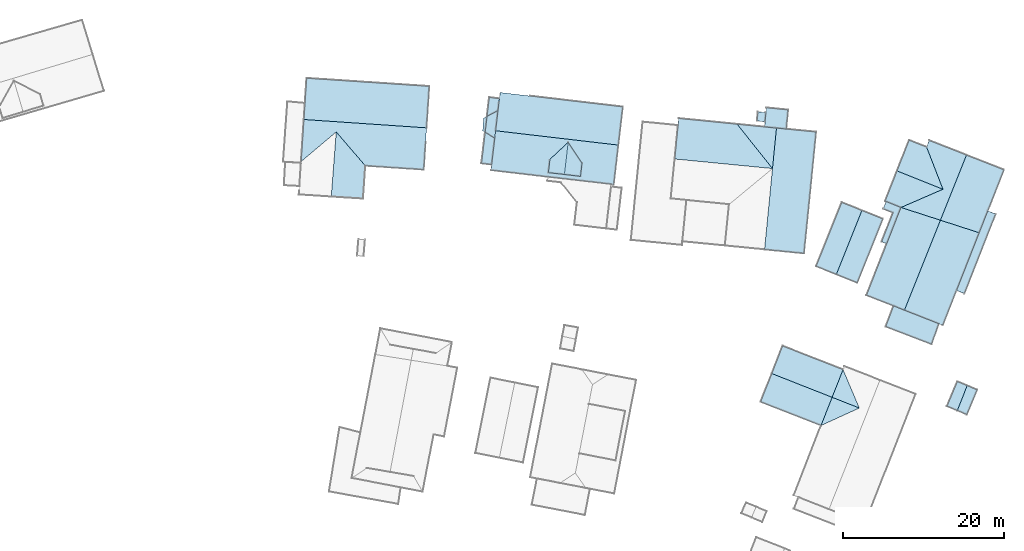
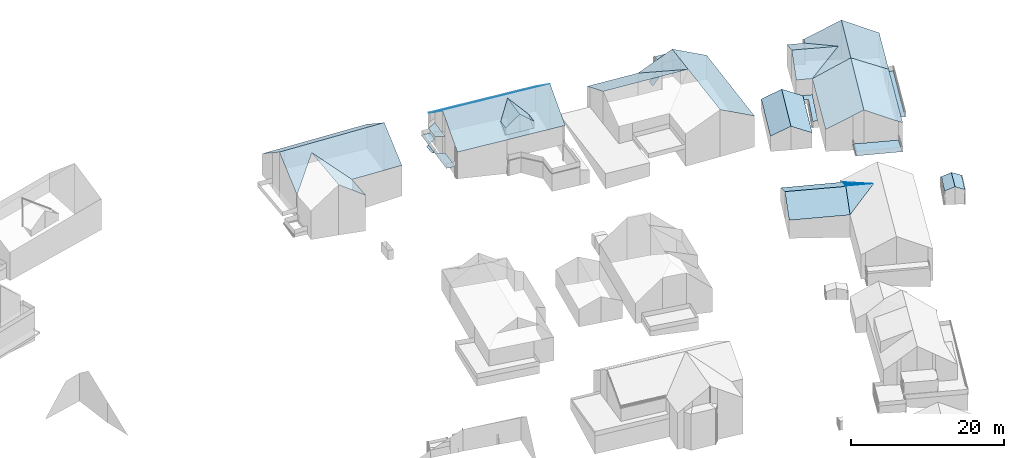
# Not in any storey, part 57 of 57: 66 roofs.
"""IFC2X3 building model written with IfcOpenShell, lengths in metres."""

from ifc_helpers import new_model, entity, si_unit, converted_unit, frame, origin, place, context, subcontext, project, spatial, face_set, surface_model, element, save


model = new_model("IFC2X3")

# Units and contexts
model_context = context("Model", 3, precision=1e-05, world=origin())
body_context = subcontext(model_context, "Body", "Model", "MODEL_VIEW")
ifc_project = project(units=[converted_unit("PLANEANGLEUNIT", "DEGREE", entity("IfcRatioMeasure", 0.0174532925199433), si_unit("PLANEANGLEUNIT", "RADIAN"), dimensions=[0, 0, 0, 0, 0, 0, 0]), si_unit("AREAUNIT", "SQUARE_METRE"), si_unit("LENGTHUNIT", "METRE")], contexts=[model_context])

# Site, building
site_placement = place(None, origin())
site = spatial("IfcSite", under=ifc_project, at=site_placement, Name="_site", CompositionType="ELEMENT")
building_1_placement = place(site_placement, origin())
building_1 = spatial("IfcBuilding", under=site, at=building_1_placement, Name="_building", CompositionType="ELEMENT")

# Roofs
roof_1_placement = place(building_1_placement, origin())
element("IfcRoof", 1, at=roof_1_placement, inside=building_1, Name="Roof", ShapeType="NOTDEFINED", context=body_context, shape_type="SurfaceModel", body=[
    surface_model("IfcFaceBasedSurfaceModel", [(281.352, 143.278, 113.11), (278.854, 144.277, 111.8), (275.667, 136.357, 111.8), (278.174, 135.347, 113.11)], [face_set([[[0, 1, 2, 3]]])]),
])
roof_2_placement = place(building_1_placement, origin())
element("IfcRoof", 2, at=roof_2_placement, inside=building_1, Name="Roof", ShapeType="NOTDEFINED", context=body_context, shape_type="SurfaceModel", body=[
    surface_model("IfcFaceBasedSurfaceModel", [(278.174, 135.347, 113.11), (280.772, 134.306, 111.8), (283.959, 142.226, 111.8), (281.352, 143.278, 113.11)], [face_set([[[0, 1, 2, 3]]])]),
])
roof_3_placement = place(building_1_placement, origin())
element("IfcRoof", 3, at=roof_3_placement, inside=building_1, Name="Roof", ShapeType="NOTDEFINED", context=body_context, shape_type="SurfaceModel", body=[
    surface_model("IfcFaceBasedSurfaceModel", [(281.352, 143.278, 113.11), (278.854, 144.277, 111.8), (275.667, 136.357, 111.8), (278.174, 135.347, 113.11)], [face_set([[[0, 1, 2, 3]]])]),
])
roof_4_placement = place(building_1_placement, origin())
element("IfcRoof", 4, at=roof_4_placement, inside=building_1, Name="Roof", ShapeType="NOTDEFINED", context=body_context, shape_type="SurfaceModel", body=[
    surface_model("IfcFaceBasedSurfaceModel", [(278.174, 135.347, 113.11), (280.772, 134.306, 111.8), (283.959, 142.226, 111.8), (281.352, 143.278, 113.11)], [face_set([[[0, 1, 2, 3]]])]),
])

# Building
building_2_placement = place(site_placement, origin())
building_2 = spatial("IfcBuilding", under=site, at=building_2_placement, Name="_building", CompositionType="ELEMENT")

# Roofs
roof_5_placement = place(building_2_placement, origin())
element("IfcRoof", 5, at=roof_5_placement, inside=building_2, Name="Roof", ShapeType="NOTDEFINED", context=body_context, shape_type="SurfaceModel", body=[
    surface_model("IfcFaceBasedSurfaceModel", [(251.143, 151.39, 119.58), (251.705, 156.14, 116.13), (236.477, 157.917, 116.15), (236.389, 157.159, 116.697), (236.215, 155.673, 117.77), (235.925, 153.167, 119.58)], [face_set([[[0, 1, 2, 3, 4, 5]]])]),
])
roof_6_placement = place(building_2_placement, origin())
element("IfcRoof", 6, at=roof_6_placement, inside=building_2, Name="Roof", ShapeType="NOTDEFINED", context=body_context, shape_type="SurfaceModel", body=[
    surface_model("IfcFaceBasedSurfaceModel", [(244.917, 151.736, 119.316), (244.454, 147.744, 119.32), (246.449, 147.507, 117.68), (246.638, 149.164, 117.675)], [face_set([[[0, 1, 2, 3]]])]),
])
roof_7_placement = place(building_2_placement, origin())
element("IfcRoof", 7, at=roof_7_placement, inside=building_2, Name="Roof", ShapeType="NOTDEFINED", context=body_context, shape_type="SurfaceModel", body=[
    surface_model("IfcFaceBasedSurfaceModel", [(244.917, 151.736, 119.316), (242.657, 149.627, 117.674), (242.468, 147.971, 117.68), (244.454, 147.744, 119.32)], [face_set([[[0, 1, 2, 3]]])]),
])
roof_8_placement = place(building_2_placement, origin())
element("IfcRoof", 8, at=roof_8_placement, inside=building_2, Name="Roof", ShapeType="NOTDEFINED", context=body_context, shape_type="SurfaceModel", body=[
    surface_model("IfcFaceBasedSurfaceModel", [(235.925, 153.167, 119.58), (235.816, 152.248, 118.935), (235.43, 148.966, 116.632), (235.35, 148.278, 116.15), (242.386, 147.452, 116.15), (250.289, 146.537, 116.15), (250.578, 146.5, 116.15), (251.143, 151.39, 119.58)], [face_set([[[0, 1, 2, 3, 4, 5, 6, 7]]])]),
])
roof_9_placement = place(building_2_placement, origin())
element("IfcRoof", 9, at=roof_9_placement, inside=building_2, Name="Roof", ShapeType="NOTDEFINED", context=body_context, shape_type="SurfaceModel", body=[
    surface_model("IfcFaceBasedSurfaceModel", [(251.143, 151.39, 119.58), (251.705, 156.14, 116.13), (236.477, 157.917, 116.15), (236.389, 157.159, 116.697), (236.215, 155.673, 117.77), (235.925, 153.167, 119.58)], [face_set([[[0, 1, 2, 3, 4, 5]]])]),
])
roof_10_placement = place(building_2_placement, origin())
element("IfcRoof", 10, at=roof_10_placement, inside=building_2, Name="Roof", ShapeType="NOTDEFINED", context=body_context, shape_type="SurfaceModel", body=[
    surface_model("IfcFaceBasedSurfaceModel", [(235.925, 153.167, 116.07), (236.215, 155.673, 116.07), (234.856, 154.961, 116.07), (234.622, 152.968, 116.07), (235.816, 152.248, 116.07)], [face_set([[[0, 1, 2, 3, 4]]])]),
])
roof_11_placement = place(building_2_placement, origin())
element("IfcRoof", 11, at=roof_11_placement, inside=building_2, Name="Roof", ShapeType="NOTDEFINED", context=body_context, shape_type="SurfaceModel", body=[
    surface_model("IfcFaceBasedSurfaceModel", [(235.925, 153.167, 119.58), (235.816, 152.248, 118.935), (235.43, 148.966, 116.632), (235.35, 148.278, 116.15), (242.386, 147.452, 116.15), (250.289, 146.537, 116.15), (250.578, 146.5, 116.15), (251.143, 151.39, 119.58)], [face_set([[[0, 1, 2, 3, 4, 5, 6, 7]]])]),
])
roof_12_placement = place(building_2_placement, origin())
element("IfcRoof", 12, at=roof_12_placement, inside=building_2, Name="Roof", ShapeType="NOTDEFINED", context=body_context, shape_type="SurfaceModel", body=[
    surface_model("IfcFaceBasedSurfaceModel", [(244.917, 151.736, 119.316), (242.657, 149.627, 117.674), (242.468, 147.971, 117.68), (244.454, 147.744, 119.32)], [face_set([[[0, 1, 2, 3]]])]),
])
roof_13_placement = place(building_2_placement, origin())
element("IfcRoof", 13, at=roof_13_placement, inside=building_2, Name="Roof", ShapeType="NOTDEFINED", context=body_context, shape_type="SurfaceModel", body=[
    surface_model("IfcFaceBasedSurfaceModel", [(244.917, 151.736, 119.316), (244.454, 147.744, 119.32), (246.449, 147.507, 117.68), (246.638, 149.164, 117.675)], [face_set([[[0, 1, 2, 3]]])]),
])
roof_14_placement = place(building_2_placement, origin())
element("IfcRoof", 14, at=roof_14_placement, inside=building_2, Name="Roof", ShapeType="NOTDEFINED", context=body_context, shape_type="SurfaceModel", body=[
    surface_model("IfcFaceBasedSurfaceModel", [(244.454, 147.744, 116.516), (246.449, 147.507, 116.513), (246.638, 149.164, 117.675), (244.917, 151.736, 119.316), (242.657, 149.627, 117.674), (242.468, 147.971, 116.513)], [face_set([[[0, 1, 2, 3, 4, 5]]])]),
])
roof_15_placement = place(building_2_placement, origin())
element("IfcRoof", 15, at=roof_15_placement, inside=building_2, Name="Roof", ShapeType="NOTDEFINED", context=body_context, shape_type="SurfaceModel", body=[
    surface_model("IfcFaceBasedSurfaceModel", [(234.856, 154.961, 113.45), (236.215, 155.673, 113.45), (236.389, 157.159, 113.45), (235.132, 157.308, 113.45)], [face_set([[[0, 1, 2, 3]]])]),
])
roof_16_placement = place(building_2_placement, origin())
element("IfcRoof", 16, at=roof_16_placement, inside=building_2, Name="Roof", ShapeType="NOTDEFINED", context=body_context, shape_type="SurfaceModel", body=[
    surface_model("IfcFaceBasedSurfaceModel", [(234.856, 154.961, 113.45), (234.421, 154.733, 113.45), (234.314, 153.154, 113.45), (234.622, 152.968, 113.45)], [face_set([[[0, 1, 2, 3]]])]),
])
for number, where, name in (
    (17, (0.0, 0.0, 0.0), "Roof"),
    (18, (0.0, 0.0, 0.0), "Roof"),
):
    element("IfcRoof", number, at=place(building_2_placement, frame(where)), inside=building_2, Name=name, ShapeType="NOTDEFINED", context=body_context, shape_type="SurfaceModel", body=[
        surface_model("IfcFaceBasedSurfaceModel", [(235.43, 148.966, 113.45), (235.816, 152.248, 113.45), (234.622, 152.968, 113.45), (234.169, 149.116, 113.45)], [face_set([[[0, 1, 2, 3]]])]),
    ])
roof_17_placement = place(building_2_placement, origin())
element("IfcRoof", 19, at=roof_17_placement, inside=building_2, Name="Roof", ShapeType="NOTDEFINED", context=body_context, shape_type="SurfaceModel", body=[
    surface_model("IfcFaceBasedSurfaceModel", [(234.856, 154.961, 113.45), (234.421, 154.733, 113.45), (234.314, 153.154, 113.45), (234.622, 152.968, 113.45)], [face_set([[[0, 1, 2, 3]]])]),
])
roof_18_placement = place(building_2_placement, origin())
element("IfcRoof", 20, at=roof_18_placement, inside=building_2, Name="Roof", ShapeType="NOTDEFINED", context=body_context, shape_type="SurfaceModel", body=[
    surface_model("IfcFaceBasedSurfaceModel", [(234.856, 154.961, 113.45), (236.215, 155.673, 113.45), (236.389, 157.159, 113.45), (235.132, 157.308, 113.45)], [face_set([[[0, 1, 2, 3]]])]),
])
roof_19_placement = place(building_2_placement, origin())
element("IfcRoof", 21, at=roof_19_placement, inside=building_2, Name="Roof", ShapeType="NOTDEFINED", context=body_context, shape_type="SurfaceModel", body=[
    surface_model("IfcFaceBasedSurfaceModel", [(235.925, 153.167, 116.07), (236.215, 155.673, 116.07), (234.856, 154.961, 116.07), (234.622, 152.968, 116.07), (235.816, 152.248, 116.07)], [face_set([[[0, 1, 2, 3, 4]]])]),
])

# Building
building_3_placement = place(site_placement, origin())
building_3 = spatial("IfcBuilding", under=site, at=building_3_placement, Name="_building", CompositionType="ELEMENT")

# Roofs
roof_20_placement = place(building_3_placement, origin())
element("IfcRoof", 22, at=roof_20_placement, inside=building_3, Name="Roof", ShapeType="NOTDEFINED", context=body_context, shape_type="SurfaceModel", body=[
    surface_model("IfcFaceBasedSurfaceModel", [(293.179, 118.466, 108.44), (294.358, 117.968, 107.89), (295.65, 121.03, 107.89), (294.402, 121.559, 108.44)], [face_set([[[0, 1, 2, 3]]])]),
])
roof_21_placement = place(building_3_placement, origin())
element("IfcRoof", 23, at=roof_21_placement, inside=building_3, Name="Roof", ShapeType="NOTDEFINED", context=body_context, shape_type="SurfaceModel", body=[
    surface_model("IfcFaceBasedSurfaceModel", [(294.402, 121.559, 108.44), (293.193, 122.068, 107.89), (291.901, 119.006, 107.89), (293.179, 118.466, 108.44)], [face_set([[[0, 1, 2, 3]]])]),
])
roof_22_placement = place(building_3_placement, origin())
element("IfcRoof", 24, at=roof_22_placement, inside=building_3, Name="Roof", ShapeType="NOTDEFINED", context=body_context, shape_type="SurfaceModel", body=[
    surface_model("IfcFaceBasedSurfaceModel", [(293.179, 118.466, 108.44), (294.358, 117.968, 107.89), (295.65, 121.03, 107.89), (294.402, 121.559, 108.44)], [face_set([[[0, 1, 2, 3]]])]),
])
roof_23_placement = place(building_3_placement, origin())
element("IfcRoof", 25, at=roof_23_placement, inside=building_3, Name="Roof", ShapeType="NOTDEFINED", context=body_context, shape_type="SurfaceModel", body=[
    surface_model("IfcFaceBasedSurfaceModel", [(294.402, 121.559, 108.44), (293.193, 122.068, 107.89), (291.901, 119.006, 107.89), (293.179, 118.466, 108.44)], [face_set([[[0, 1, 2, 3]]])]),
])

# Building
building_4_placement = place(site_placement, origin())
building_4 = spatial("IfcBuilding", under=site, at=building_4_placement, Name="_building", CompositionType="ELEMENT")

# Roofs
roof_24_placement = place(building_4_placement, origin())
element("IfcRoof", 26, at=roof_24_placement, inside=building_4, Name="Roof", ShapeType="NOTDEFINED", context=body_context, shape_type="SurfaceModel", body=[
    surface_model("IfcFaceBasedSurfaceModel", [(286.616, 130.917, 115.43), (290.89, 129.238, 113.127), (291.385, 129.044, 112.86), (293.08, 133.357, 112.86), (295.896, 140.516, 112.86), (291.085, 142.072, 115.43)], [face_set([[[0, 1, 2, 3, 4, 5]]])]),
])
roof_25_placement = place(building_4_placement, origin())
element("IfcRoof", 27, at=roof_25_placement, inside=building_4, Name="Roof", ShapeType="NOTDEFINED", context=body_context, shape_type="SurfaceModel", body=[
    surface_model("IfcFaceBasedSurfaceModel", [(291.085, 142.072, 115.43), (286.194, 143.655, 112.87), (281.916, 132.768, 112.86), (285.277, 131.446, 114.697), (286.616, 130.917, 115.43)], [face_set([[[0, 1, 2, 3, 4]]])]),
])
roof_26_placement = place(building_4_placement, origin())
element("IfcRoof", 28, at=roof_26_placement, inside=building_4, Name="Roof", ShapeType="NOTDEFINED", context=body_context, shape_type="SurfaceModel", body=[
    surface_model("IfcFaceBasedSurfaceModel", [(286.616, 130.917, 115.43), (290.89, 129.238, 113.127), (291.385, 129.044, 112.86), (293.08, 133.357, 112.86), (295.896, 140.516, 112.86), (291.085, 142.072, 115.43)], [face_set([[[0, 1, 2, 3, 4, 5]]])]),
])
roof_27_placement = place(building_4_placement, origin())
element("IfcRoof", 29, at=roof_27_placement, inside=building_4, Name="Roof", ShapeType="NOTDEFINED", context=body_context, shape_type="SurfaceModel", body=[
    surface_model("IfcFaceBasedSurfaceModel", [(296.962, 143.222, 110.52), (295.896, 140.516, 110.52), (293.08, 133.357, 110.52), (294.059, 132.974, 110.52), (297.942, 142.84, 110.52)], [face_set([[[0, 1, 2, 3, 4]]])]),
])
roof_28_placement = place(building_4_placement, origin())
element("IfcRoof", 30, at=roof_28_placement, inside=building_4, Name="Roof", ShapeType="NOTDEFINED", context=body_context, shape_type="SurfaceModel", body=[
    surface_model("IfcFaceBasedSurfaceModel", [(290.89, 129.238, 110.185), (286.616, 130.917, 110.185), (285.277, 131.446, 110.185), (284.297, 128.87, 110.185), (289.989, 126.686, 110.185)], [face_set([[[0, 1, 2, 3, 4]]])]),
])
roof_29_placement = place(building_4_placement, origin())
element("IfcRoof", 31, at=roof_29_placement, inside=building_4, Name="Roof", ShapeType="NOTDEFINED", context=body_context, shape_type="SurfaceModel", body=[
    surface_model("IfcFaceBasedSurfaceModel", [(296.962, 143.222, 110.52), (295.896, 140.516, 110.52), (293.08, 133.357, 110.52), (294.059, 132.974, 110.52), (297.942, 142.84, 110.52)], [face_set([[[0, 1, 2, 3, 4]]])]),
])
roof_30_placement = place(building_4_placement, origin())
element("IfcRoof", 32, at=roof_30_placement, inside=building_4, Name="Roof", ShapeType="NOTDEFINED", context=body_context, shape_type="SurfaceModel", body=[
    surface_model("IfcFaceBasedSurfaceModel", [(290.89, 129.238, 110.185), (286.616, 130.917, 110.185), (285.277, 131.446, 110.185), (284.297, 128.87, 110.185), (289.989, 126.686, 110.185)], [face_set([[[0, 1, 2, 3, 4]]])]),
])
roof_31_placement = place(building_4_placement, origin())
element("IfcRoof", 33, at=roof_31_placement, inside=building_4, Name="Roof", ShapeType="NOTDEFINED", context=body_context, shape_type="SurfaceModel", body=[
    surface_model("IfcFaceBasedSurfaceModel", [(291.085, 142.072, 115.43), (286.194, 143.655, 112.87), (281.916, 132.768, 112.86), (285.277, 131.446, 114.697), (286.616, 130.917, 115.43)], [face_set([[[0, 1, 2, 3, 4]]])]),
])

# Building
building_5_placement = place(site_placement, origin())
building_5 = spatial("IfcBuilding", under=site, at=building_5_placement, Name="_building", CompositionType="ELEMENT")

# Roofs
roof_32_placement = place(building_5_placement, origin())
element("IfcRoof", 34, at=roof_32_placement, inside=building_5, Name="Roof", ShapeType="NOTDEFINED", context=body_context, shape_type="SurfaceModel", body=[
    surface_model("IfcFaceBasedSurfaceModel", [(273.573, 121.716, 112.96), (277.655, 120.109, 112.96), (279.009, 123.541, 111.07), (271.513, 126.478, 111.02), (270.172, 123.057, 112.96)], [face_set([[[0, 1, 2, 3, 4]]])]),
])
roof_33_placement = place(building_5_placement, origin())
element("IfcRoof", 35, at=roof_33_placement, inside=building_5, Name="Roof", ShapeType="NOTDEFINED", context=body_context, shape_type="SurfaceModel", body=[
    surface_model("IfcFaceBasedSurfaceModel", [(270.172, 123.057, 112.96), (268.789, 119.537, 111.02), (276.275, 116.611, 111.02), (277.655, 120.109, 112.96), (273.573, 121.716, 112.96)], [face_set([[[0, 1, 2, 3, 4]]])]),
])
roof_34_placement = place(building_5_placement, origin())
element("IfcRoof", 36, at=roof_34_placement, inside=building_5, Name="Roof", ShapeType="NOTDEFINED", context=body_context, shape_type="SurfaceModel", body=[
    surface_model("IfcFaceBasedSurfaceModel", [(273.573, 121.716, 112.96), (277.655, 120.109, 112.96), (279.009, 123.541, 111.07), (271.513, 126.478, 111.02), (270.172, 123.057, 112.96)], [face_set([[[0, 1, 2, 3, 4]]])]),
])
roof_35_placement = place(building_5_placement, origin())
element("IfcRoof", 37, at=roof_35_placement, inside=building_5, Name="Roof", ShapeType="NOTDEFINED", context=body_context, shape_type="SurfaceModel", body=[
    surface_model("IfcFaceBasedSurfaceModel", [(270.172, 123.057, 112.96), (268.789, 119.537, 111.02), (276.275, 116.611, 111.02), (277.655, 120.109, 112.96), (273.573, 121.716, 112.96)], [face_set([[[0, 1, 2, 3, 4]]])]),
])

# Building
building_6_placement = place(site_placement, origin())
building_6 = spatial("IfcBuilding", under=site, at=building_6_placement, Name="_building", CompositionType="ELEMENT")

# Roofs
roof_36_placement = place(building_6_placement, origin())
element("IfcRoof", 38, at=roof_36_placement, inside=building_6, Name="Roof", ShapeType="NOTDEFINED", context=body_context, shape_type="SurfaceModel", body=[
    surface_model("IfcFaceBasedSurfaceModel", [(289.371, 151.145, 112.87), (287.2, 152.007, 112.87), (285.709, 148.189, 114.84), (291.4, 145.914, 114.84)], [face_set([[[0, 1, 2, 3]]])]),
])
roof_37_placement = place(building_6_placement, origin())
element("IfcRoof", 39, at=roof_37_placement, inside=building_6, Name="Roof", ShapeType="NOTDEFINED", context=body_context, shape_type="SurfaceModel", body=[
    surface_model("IfcFaceBasedSurfaceModel", [(283.988, 143.476, 110.32), (285.208, 142.997, 110.32), (283.793, 139.398, 109.47), (284.427, 139.153, 109.47), (286.194, 143.655, 110.32), (284.34, 144.389, 110.32)], [face_set([[[0, 1, 2, 3, 4, 5]]])]),
])
roof_38_placement = place(building_6_placement, origin())
element("IfcRoof", 40, at=roof_38_placement, inside=building_6, Name="Roof", ShapeType="NOTDEFINED", context=body_context, shape_type="SurfaceModel", body=[
    surface_model("IfcFaceBasedSurfaceModel", [(285.709, 148.189, 114.84), (284.221, 144.432, 112.87), (286.194, 143.655, 112.87), (291.4, 145.914, 114.84)], [face_set([[[0, 1, 2, 3]]])]),
])
roof_39_placement = place(building_6_placement, origin())
element("IfcRoof", 41, at=roof_39_placement, inside=building_6, Name="Roof", ShapeType="NOTDEFINED", context=body_context, shape_type="SurfaceModel", body=[
    surface_model("IfcFaceBasedSurfaceModel", [(291.085, 142.072, 115.43), (295.896, 140.516, 112.86), (296.962, 143.222, 112.86), (298.971, 148.319, 112.86), (294.321, 150.149, 115.43)], [face_set([[[0, 1, 2, 3, 4]]])]),
])
roof_40_placement = place(building_6_placement, origin())
element("IfcRoof", 42, at=roof_40_placement, inside=building_6, Name="Roof", ShapeType="NOTDEFINED", context=body_context, shape_type="SurfaceModel", body=[
    surface_model("IfcFaceBasedSurfaceModel", [(291.4, 145.914, 114.84), (286.194, 143.655, 112.87), (291.085, 142.072, 115.43), (294.321, 150.149, 115.43), (289.69, 151.968, 112.87), (289.371, 151.145, 112.87)], [face_set([[[0, 1, 2, 3, 4, 5]]])]),
])
roof_41_placement = place(building_6_placement, origin())
element("IfcRoof", 43, at=roof_41_placement, inside=building_6, Name="Roof", ShapeType="NOTDEFINED", context=body_context, shape_type="SurfaceModel", body=[
    surface_model("IfcFaceBasedSurfaceModel", [(289.371, 151.145, 112.87), (287.2, 152.007, 112.87), (285.709, 148.189, 114.84), (291.4, 145.914, 114.84)], [face_set([[[0, 1, 2, 3]]])]),
])
roof_42_placement = place(building_6_placement, origin())
element("IfcRoof", 44, at=roof_42_placement, inside=building_6, Name="Roof", ShapeType="NOTDEFINED", context=body_context, shape_type="SurfaceModel", body=[
    surface_model("IfcFaceBasedSurfaceModel", [(283.988, 143.476, 110.32), (285.208, 142.997, 110.32), (283.793, 139.398, 109.47), (284.427, 139.153, 109.47), (286.194, 143.655, 110.32), (284.34, 144.389, 110.32)], [face_set([[[0, 1, 2, 3, 4, 5]]])]),
])
roof_43_placement = place(building_6_placement, origin())
element("IfcRoof", 45, at=roof_43_placement, inside=building_6, Name="Roof", ShapeType="NOTDEFINED", context=body_context, shape_type="SurfaceModel", body=[
    surface_model("IfcFaceBasedSurfaceModel", [(285.709, 148.189, 114.84), (284.221, 144.432, 112.87), (286.194, 143.655, 112.87), (291.4, 145.914, 114.84)], [face_set([[[0, 1, 2, 3]]])]),
])
roof_44_placement = place(building_6_placement, origin())
element("IfcRoof", 46, at=roof_44_placement, inside=building_6, Name="Roof", ShapeType="NOTDEFINED", context=body_context, shape_type="SurfaceModel", body=[
    surface_model("IfcFaceBasedSurfaceModel", [(291.085, 142.072, 115.43), (295.896, 140.516, 112.86), (296.962, 143.222, 112.86), (298.971, 148.319, 112.86), (294.321, 150.149, 115.43)], [face_set([[[0, 1, 2, 3, 4]]])]),
])
roof_45_placement = place(building_6_placement, origin())
element("IfcRoof", 47, at=roof_45_placement, inside=building_6, Name="Roof", ShapeType="NOTDEFINED", context=body_context, shape_type="SurfaceModel", body=[
    surface_model("IfcFaceBasedSurfaceModel", [(291.4, 145.914, 114.84), (286.194, 143.655, 112.87), (291.085, 142.072, 115.43), (294.321, 150.149, 115.43), (289.69, 151.968, 112.87), (289.371, 151.145, 112.87)], [face_set([[[0, 1, 2, 3, 4, 5]]])]),
])

# Building
building_7_placement = place(site_placement, origin())
building_7 = spatial("IfcBuilding", under=site, at=building_7_placement, Name="_building", CompositionType="ELEMENT")

# Roofs
roof_46_placement = place(building_7_placement, origin())
element("IfcRoof", 48, at=roof_46_placement, inside=building_7, Name="Roof", ShapeType="NOTDEFINED", context=body_context, shape_type="SurfaceModel", body=[
    surface_model("IfcFaceBasedSurfaceModel", [(216.15, 153.02, 119.89), (219.764, 148.822, 116.92), (227.017, 148.342, 116.92), (227.358, 153.528, 120.47), (212.143, 154.564, 120.47), (211.801, 149.349, 116.92)], [face_set([[[0, 1, 2, 3, 4, 5]]])]),
])
roof_47_placement = place(building_7_placement, origin())
element("IfcRoof", 49, at=roof_47_placement, inside=building_7, Name="Roof", ShapeType="NOTDEFINED", context=body_context, shape_type="SurfaceModel", body=[
    surface_model("IfcFaceBasedSurfaceModel", [(227.358, 153.528, 120.47), (227.699, 158.683, 116.97), (215.76, 159.473, 116.97), (212.483, 159.689, 116.98), (212.278, 156.582, 119.096), (212.143, 154.564, 120.47)], [face_set([[[0, 1, 2, 3, 4, 5]]])]),
])
roof_48_placement = place(building_7_placement, origin())
element("IfcRoof", 50, at=roof_48_placement, inside=building_7, Name="Roof", ShapeType="NOTDEFINED", context=body_context, shape_type="SurfaceModel", body=[
    surface_model("IfcFaceBasedSurfaceModel", [(215.531, 144.989, 119.89), (219.488, 144.736, 116.98), (219.764, 148.822, 116.92), (216.15, 153.02, 119.89)], [face_set([[[0, 1, 2, 3]]])]),
])
roof_49_placement = place(building_7_placement, origin())
element("IfcRoof", 51, at=roof_49_placement, inside=building_7, Name="Roof", ShapeType="NOTDEFINED", context=body_context, shape_type="SurfaceModel", body=[
    surface_model("IfcFaceBasedSurfaceModel", [(216.15, 153.02, 119.89), (219.764, 148.822, 116.92), (227.017, 148.342, 116.92), (227.358, 153.528, 120.47), (212.143, 154.564, 120.47), (211.801, 149.349, 116.92)], [face_set([[[0, 1, 2, 3, 4, 5]]])]),
])
roof_50_placement = place(building_7_placement, origin())
element("IfcRoof", 52, at=roof_50_placement, inside=building_7, Name="Roof", ShapeType="NOTDEFINED", context=body_context, shape_type="SurfaceModel", body=[
    surface_model("IfcFaceBasedSurfaceModel", [(227.358, 153.528, 120.47), (227.699, 158.683, 116.97), (215.76, 159.473, 116.97), (212.483, 159.689, 116.98), (212.278, 156.582, 119.096), (212.143, 154.564, 120.47)], [face_set([[[0, 1, 2, 3, 4, 5]]])]),
])

# Building
building_8_placement = place(site_placement, origin())
building_8 = spatial("IfcBuilding", under=site, at=building_8_placement, Name="_building", CompositionType="ELEMENT")

# Roofs
roof_51_placement = place(building_8_placement, origin())
element("IfcRoof", 53, at=roof_51_placement, inside=building_8, Name="Roof", ShapeType="NOTDEFINED", context=body_context, shape_type="SurfaceModel", body=[
    surface_model("IfcFaceBasedSurfaceModel", [(279.009, 123.541, 111.07), (277.655, 120.109, 112.96), (281.029, 118.78, 112.96)], [face_set([[[0, 1, 2]]])]),
])
for number, where, name in (
    (54, (0.0, 0.0, 0.0), "Roof"),
    (55, (0.0, 0.0, 0.0), "Roof"),
):
    element("IfcRoof", number, at=place(building_8_placement, frame(where)), inside=building_8, Name=name, ShapeType="NOTDEFINED", context=body_context, shape_type="SurfaceModel", body=[
        surface_model("IfcFaceBasedSurfaceModel", [(277.655, 120.109, 112.96), (276.275, 116.611, 111.02), (281.029, 118.78, 112.96)], [face_set([[[0, 1, 2]]])]),
    ])
roof_52_placement = place(building_8_placement, origin())
element("IfcRoof", 56, at=roof_52_placement, inside=building_8, Name="Roof", ShapeType="NOTDEFINED", context=body_context, shape_type="SurfaceModel", body=[
    surface_model("IfcFaceBasedSurfaceModel", [(279.009, 123.541, 111.07), (277.655, 120.109, 112.96), (281.029, 118.78, 112.96)], [face_set([[[0, 1, 2]]])]),
])

# Building
building_9_placement = place(site_placement, origin())
building_9 = spatial("IfcBuilding", under=site, at=building_9_placement, Name="_building", CompositionType="ELEMENT")

# Roofs
roof_53_placement = place(building_9_placement, origin())
element("IfcRoof", 57, at=roof_53_placement, inside=building_9, Name="Roof", ShapeType="NOTDEFINED", context=body_context, shape_type="SurfaceModel", body=[
    surface_model("IfcFaceBasedSurfaceModel", [(270.257, 148.481, 117.01), (270.755, 153.502, 117.01), (269.267, 153.647, 116.27), (265.873, 153.987, 114.59)], [face_set([[[0, 1, 2, 3]]])]),
])
roof_54_placement = place(building_9_placement, origin())
element("IfcRoof", 58, at=roof_54_placement, inside=building_9, Name="Roof", ShapeType="NOTDEFINED", context=body_context, shape_type="SurfaceModel", body=[
    surface_model("IfcFaceBasedSurfaceModel", [(271.973, 153.384, 115.18), (272.208, 155.76, 114.69), (269.503, 156.033, 114.69), (269.447, 155.444, 114.816), (269.331, 154.286, 115.063), (269.267, 153.647, 115.2), (270.755, 153.502, 115.189)], [face_set([[[0, 1, 2, 3, 4, 5, 6]]])]),
])
roof_55_placement = place(building_9_placement, origin())
element("IfcRoof", 59, at=roof_55_placement, inside=building_9, Name="Roof", ShapeType="NOTDEFINED", context=body_context, shape_type="SurfaceModel", body=[
    surface_model("IfcFaceBasedSurfaceModel", [(269.331, 154.286, 112.59), (269.447, 155.444, 112.59), (268.461, 155.537, 111.41), (268.344, 154.379, 111.41)], [face_set([[[0, 1, 2, 3]]])]),
])
roof_56_placement = place(building_9_placement, origin())
element("IfcRoof", 60, at=roof_56_placement, inside=building_9, Name="Roof", ShapeType="NOTDEFINED", context=body_context, shape_type="SurfaceModel", body=[
    surface_model("IfcFaceBasedSurfaceModel", [(265.873, 153.987, 114.59), (258.635, 154.706, 114.59), (258.545, 153.838, 115.01), (258.136, 149.665, 117.01), (270.257, 148.481, 117.01)], [face_set([[[0, 1, 2, 3, 4]]])]),
])
roof_57_placement = place(building_9_placement, origin())
element("IfcRoof", 61, at=roof_57_placement, inside=building_9, Name="Roof", ShapeType="NOTDEFINED", context=body_context, shape_type="SurfaceModel", body=[
    surface_model("IfcFaceBasedSurfaceModel", [(269.271, 138.438, 117.01), (274.173, 137.953, 114.59), (275.676, 153.017, 114.59), (271.973, 153.384, 116.41), (270.755, 153.502, 117.01), (270.257, 148.481, 117.01)], [face_set([[[0, 1, 2, 3, 4, 5]]])]),
])
roof_58_placement = place(building_9_placement, origin())
element("IfcRoof", 62, at=roof_58_placement, inside=building_9, Name="Roof", ShapeType="NOTDEFINED", context=body_context, shape_type="SurfaceModel", body=[
    surface_model("IfcFaceBasedSurfaceModel", [(270.257, 148.481, 117.01), (270.755, 153.502, 117.01), (269.267, 153.647, 116.27), (265.873, 153.987, 114.59)], [face_set([[[0, 1, 2, 3]]])]),
])
roof_59_placement = place(building_9_placement, origin())
element("IfcRoof", 63, at=roof_59_placement, inside=building_9, Name="Roof", ShapeType="NOTDEFINED", context=body_context, shape_type="SurfaceModel", body=[
    surface_model("IfcFaceBasedSurfaceModel", [(269.331, 154.286, 112.59), (269.447, 155.444, 112.59), (268.461, 155.537, 111.41), (268.344, 154.379, 111.41)], [face_set([[[0, 1, 2, 3]]])]),
])
roof_60_placement = place(building_9_placement, origin())
element("IfcRoof", 64, at=roof_60_placement, inside=building_9, Name="Roof", ShapeType="NOTDEFINED", context=body_context, shape_type="SurfaceModel", body=[
    surface_model("IfcFaceBasedSurfaceModel", [(265.873, 153.987, 114.59), (258.635, 154.706, 114.59), (258.545, 153.838, 115.01), (258.136, 149.665, 117.01), (270.257, 148.481, 117.01)], [face_set([[[0, 1, 2, 3, 4]]])]),
])
roof_61_placement = place(building_9_placement, origin())
element("IfcRoof", 65, at=roof_61_placement, inside=building_9, Name="Roof", ShapeType="NOTDEFINED", context=body_context, shape_type="SurfaceModel", body=[
    surface_model("IfcFaceBasedSurfaceModel", [(269.271, 138.438, 117.01), (274.173, 137.953, 114.59), (275.676, 153.017, 114.59), (271.973, 153.384, 116.41), (270.755, 153.502, 117.01), (270.257, 148.481, 117.01)], [face_set([[[0, 1, 2, 3, 4, 5]]])]),
])
roof_62_placement = place(building_9_placement, origin())
element("IfcRoof", 66, at=roof_62_placement, inside=building_9, Name="Roof", ShapeType="NOTDEFINED", context=body_context, shape_type="SurfaceModel", body=[
    surface_model("IfcFaceBasedSurfaceModel", [(271.973, 153.384, 115.18), (272.208, 155.76, 114.69), (269.503, 156.033, 114.69), (269.447, 155.444, 114.816), (269.331, 154.286, 115.063), (269.267, 153.647, 115.2), (270.755, 153.502, 115.189)], [face_set([[[0, 1, 2, 3, 4, 5, 6]]])]),
])

save(model, "model.ifc")
